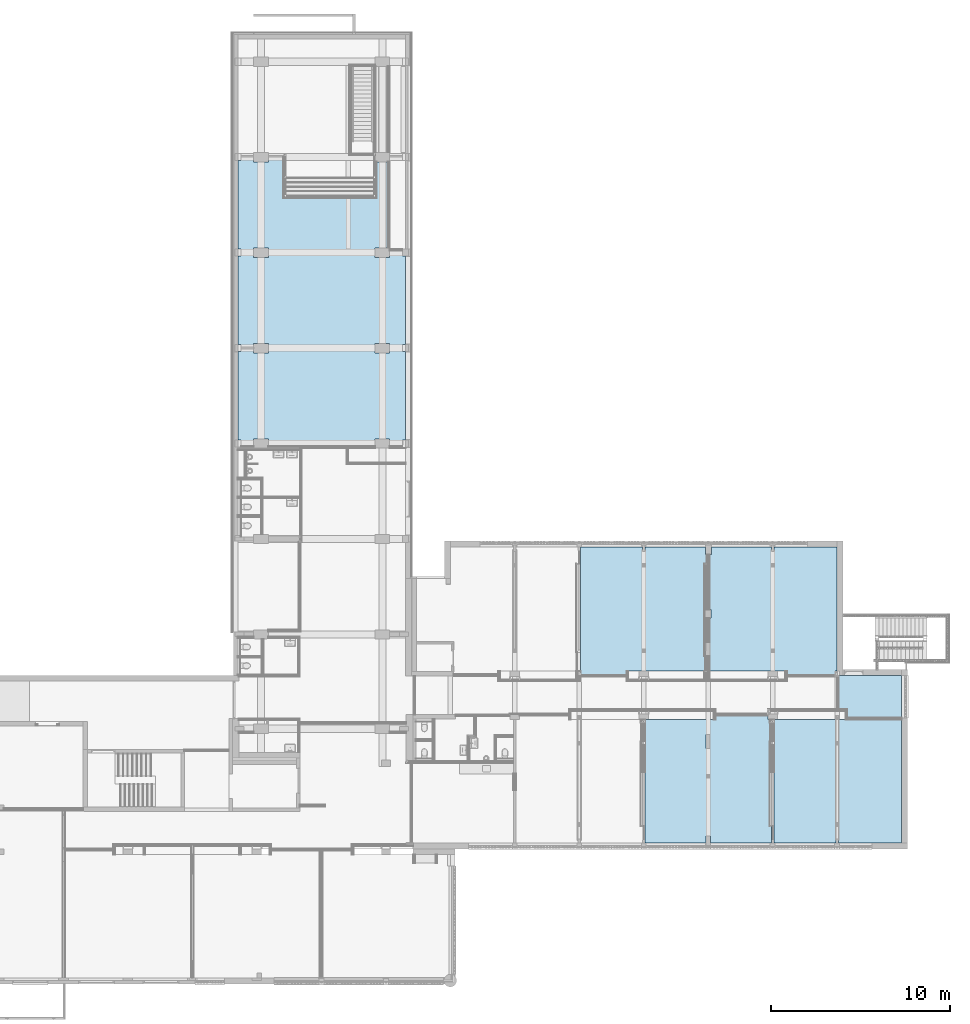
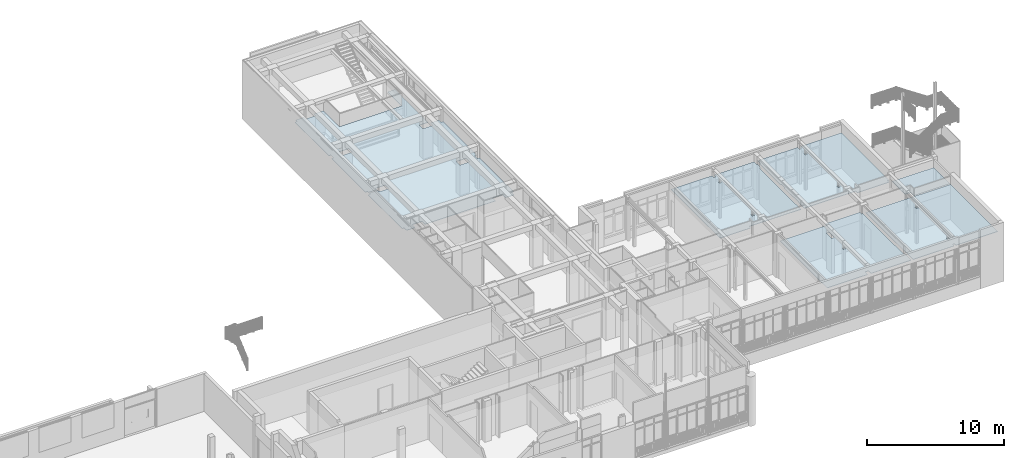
# One storey, part 73 of 135: 6 slabs.
"""IFC2X3 building model written with IfcOpenShell, lengths in millimetres."""

from ifc_helpers import new_model, entity, si_unit, converted_unit, derived_unit, money_unit, direction, frame, origin_with_axes, place, context, subcontext, project, spatial, faceted_brep, material, type_object, element, save


model = new_model("IFC2X3")

# Units and contexts
model_context = context("Model", 3, precision=0.01, world=origin_with_axes(), true_north=direction((0.0, 1.0)))
body_context = subcontext(model_context, "Body", "Model", "MODEL_VIEW")
ifc_project = project(units=[si_unit("LENGTHUNIT", "METRE", prefix="MILLI"), si_unit("AREAUNIT", "SQUARE_METRE"), si_unit("VOLUMEUNIT", "CUBIC_METRE"), converted_unit("PLANEANGLEUNIT", "DEGREE", entity("IfcPlaneAngleMeasure", 0.0174532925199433), si_unit("PLANEANGLEUNIT", "RADIAN"), dimensions=[0, 0, 0, 0, 0, 0, 0]), money_unit("EUR"), converted_unit("TIMEUNIT", "Year", entity("IfcTimeMeasure", 31557600.0), si_unit("TIMEUNIT", "SECOND"), dimensions=[0, 0, 1, 0, 0, 0, 0]), si_unit("MASSUNIT", "GRAM", prefix="KILO"), si_unit("THERMODYNAMICTEMPERATUREUNIT", "DEGREE_CELSIUS"), si_unit("LUMINOUSINTENSITYUNIT", "LUMEN"), si_unit("ENERGYUNIT", "JOULE", prefix="MEGA"), derived_unit("THERMALCONDUCTANCEUNIT", [(si_unit("POWERUNIT", "WATT"), 1), (si_unit("LENGTHUNIT", "METRE"), -1), (si_unit("THERMODYNAMICTEMPERATUREUNIT", "KELVIN"), -1)]), derived_unit("SPECIFICHEATCAPACITYUNIT", [(si_unit("ENERGYUNIT", "JOULE"), 1), (si_unit("MASSUNIT", "GRAM", prefix="KILO"), -1), (si_unit("THERMODYNAMICTEMPERATUREUNIT", "KELVIN"), -1)]), derived_unit("MASSDENSITYUNIT", [(si_unit("MASSUNIT", "GRAM", prefix="KILO"), 1), (si_unit("VOLUMEUNIT", "CUBIC_METRE"), -1)])], contexts=[model_context])

# Site, building, storey
site_placement = place(None, origin_with_axes())
site = spatial("IfcSite", under=ifc_project, at=site_placement, Name="Site", CompositionType="ELEMENT")
building_placement = place(site_placement, origin_with_axes())
building = spatial("IfcBuilding", under=site, at=building_placement, Name="Naam gebouw", CompositionType="ELEMENT")
storey_placement = place(building_placement, origin_with_axes())
storey = spatial("IfcBuildingStorey", under=building, at=storey_placement, Name="Begane grond N", CompositionType="ELEMENT", Elevation=0.0)

# Slabs
ifc_material = material(Name="ALG - BINNENAFWERKING")
slab_type = type_object("IfcSlabType", Name="ALG - BINNENAFWERKING 40", PredefinedType="NOTDEFINED")
slab_1_placement = place(storey_placement, frame((54100.0, 18445.9124251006, 3100.0), z_axis=(0.0, 0.0, 1.0), x_axis=(1.0, 0.0, 0.0)))
element("IfcSlab", 1, at=slab_1_placement, inside=storey, type_object=slab_type, material=ifc_material, Name="_Vloer-x", PredefinedType="NOTDEFINED", context=body_context, shape_type="Brep", body=[
    faceted_brep([(0.0, 0.0, 40.00000000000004), (0.0, 0.0, 0.0), (469.9999999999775, 0.0, 0.0), (469.9999999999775, 0.0, 40.00000000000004), (0.0, 1880.000000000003, 40.00000000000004), (0.0, 1880.000000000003, 0.0), (3499.999999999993, 1880.000000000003, 0.0), (3499.999999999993, -474.9999999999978, 0.0), (469.9999999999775, -474.9999999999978, 0.0), (469.9999999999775, -474.9999999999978, 40.00000000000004), (3499.999999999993, -474.9999999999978, 40.00000000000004), (3499.999999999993, 1880.000000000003, 40.00000000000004)], [[[0, 1, 2, 3]], [[4, 5, 1, 0]], [[2, 1, 5, 6, 7, 8]], [[3, 2, 8, 9]], [[0, 3, 9, 10, 11, 4]], [[11, 6, 5, 4]], [[10, 7, 6, 11]], [[9, 8, 7, 10]]]),
])
slab_2_placement = place(storey_placement, frame((20536.0, 38415.912316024, 2689.998324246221), z_axis=(0.0, 0.0, 1.0), x_axis=(1.0, 0.0, 0.0)))
element("IfcSlab", 2, at=slab_2_placement, inside=storey, type_object=slab_type, material=ifc_material, Name="_Vloer-x", PredefinedType="NOTDEFINED", context=body_context, shape_type="Brep", body=[
    faceted_brep([(7659.999999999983, 5267.5001090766, 0.0), (8479.999999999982, 5267.5001090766, 0.0), (8479.999999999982, 5630.000109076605, 0.0), (9189.99999999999, 5630.000109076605, 0.0), (9190.00007368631, 5330.000066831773, 0.0), (9370.000051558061, 5330.000066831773, 0.0), (9370.000051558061, 400.000191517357, 0.0), (9190.00007368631, 400.000191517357, 0.0), (9190.00007368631, 0.0, 0.0), (9370.000051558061, 0.0, 0.0), (9370.000051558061, -4929.999875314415, 0.0), (9190.00007368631, -4929.999875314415, 0.0), (9190.00007368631, -5292.499890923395, 0.0), (8479.999920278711, -5292.499890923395, 0.0), (8479.999920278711, -4867.499822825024, 0.0), (7660.00002108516, -4867.499822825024, 0.0), (7660.00002108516, -5292.499890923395, 0.0), (1710.000030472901, -5292.499890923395, 0.0), (1710.000030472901, -4867.499822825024, 0.0), (889.9998905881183, -4867.499822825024, 0.0), (889.9998905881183, -5292.499890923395, 0.0), (179.9999778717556, -5292.499890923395, 0.0), (179.9999778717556, -4929.999875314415, 0.0), (0.0, -4929.999875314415, 0.0), (0.0, 0.0, 0.0), (179.9999778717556, 0.0, 0.0), (179.9999778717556, 150.0002222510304, 0.0), (889.9998905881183, 150.0002222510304, 0.0), (889.9998905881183, -62.49981179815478, 0.0), (1710.000030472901, -62.49981179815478, 0.0), (1710.000030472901, 462.5000033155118, 0.0), (889.9998905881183, 462.5000033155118, 0.0), (889.9998905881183, 250.0002099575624, 0.0), (179.9999778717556, 250.0002099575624, 0.0), (179.9999778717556, 400.000191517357, 0.0), (0.0, 400.000191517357, 0.0), (0.0, 5330.000066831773, 0.0), (179.9999778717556, 5330.000066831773, 0.0), (179.9999778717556, 5730.000017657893, 0.0), (0.0, 5730.000017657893, 0.0), (0.0, 10660.00013366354, 0.0), (179.9999778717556, 10660.00013366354, 0.0), (179.9999778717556, 10860.0001090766, 0.0), (889.9998905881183, 10860.0001090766, 0.0), (889.9998905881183, 10597.50008117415, 0.0), (1710.000030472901, 10597.50008117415, 0.0), (1710.000030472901, 10860.0001090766, 0.0), (2524.000026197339, 10860.0001090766, 0.0), (2524.000026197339, 8552.000100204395, 0.0), (2536.500026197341, 8552.000100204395, 0.0), (7759.999999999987, 8552.000100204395, 0.0), (7759.999999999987, 8564.5001002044, 0.0), (7759.999999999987, 10597.5001090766, 0.0), (8379.99992027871, 10597.50009706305, 0.0), (8379.99992027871, 5792.500109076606, 0.0), (7659.999999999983, 5792.500109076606, 0.0), (889.9999999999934, 5792.500109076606, 0.0), (889.9999999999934, 5267.5001090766, 0.0), (1709.999999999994, 5267.5001090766, 0.0), (1709.999999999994, 5792.500109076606, 0.0), (7659.999999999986, 462.5001090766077, 0.0), (7659.999999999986, -62.49989092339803, 0.0), (8479.999999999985, -62.49989092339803, 0.0), (8479.999999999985, 462.5001090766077, 0.0), (7659.999999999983, 5267.5001090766, 40.00000000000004), (8479.999999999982, 5267.5001090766, 40.00000000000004), (8479.999999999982, 5630.000109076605, 40.00000000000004), (9189.99999999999, 5630.000109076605, 40.00000000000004), (9190.00007368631, 5330.000066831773, 40.00000000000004), (9370.000051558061, 5330.000066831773, 40.00000000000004), (9370.000051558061, 400.000191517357, 40.00000000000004), (9190.00007368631, 400.000191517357, 40.00000000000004), (9190.00007368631, 0.0, 40.00000000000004), (9370.000051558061, 0.0, 40.00000000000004), (9370.000051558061, -4929.999875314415, 40.00000000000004), (9190.00007368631, -4929.999875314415, 40.00000000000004), (9190.00007368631, -5292.499890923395, 40.00000000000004), (8479.999920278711, -5292.499890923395, 40.00000000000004), (8479.999920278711, -4867.499822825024, 40.00000000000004), (7660.00002108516, -4867.499822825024, 40.00000000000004), (7660.00002108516, -5292.499890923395, 40.00000000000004), (1710.000030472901, -5292.499890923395, 40.00000000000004), (1710.000030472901, -4867.499822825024, 40.00000000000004), (889.9998905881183, -4867.499822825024, 40.00000000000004), (889.9998905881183, -5292.499890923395, 40.00000000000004), (179.9999778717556, -5292.499890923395, 40.00000000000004), (179.9999778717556, -4929.999875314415, 40.00000000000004), (0.0, -4929.999875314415, 40.00000000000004), (0.0, 0.0, 40.00000000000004), (179.9999778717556, 0.0, 40.00000000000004), (179.9999778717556, 150.0002222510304, 40.00000000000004), (889.9998905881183, 150.0002222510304, 40.00000000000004), (889.9998905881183, -62.49981179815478, 40.00000000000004), (1710.000030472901, -62.49981179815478, 40.00000000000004), (1710.000030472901, 462.5000033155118, 40.00000000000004), (889.9998905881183, 462.5000033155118, 40.00000000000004), (889.9998905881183, 250.0002099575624, 40.00000000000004), (179.9999778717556, 250.0002099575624, 40.00000000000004), (179.9999778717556, 400.000191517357, 40.00000000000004), (0.0, 400.000191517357, 40.00000000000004), (0.0, 5330.000066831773, 40.00000000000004), (179.9999778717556, 5330.000066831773, 40.00000000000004), (179.9999778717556, 5730.000017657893, 40.00000000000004), (0.0, 5730.000017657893, 40.00000000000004), (0.0, 10660.00013366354, 40.00000000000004), (179.9999778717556, 10660.00013366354, 40.00000000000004), (179.9999778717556, 10860.0001090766, 40.00000000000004), (889.9998905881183, 10860.0001090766, 40.00000000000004), (889.9998905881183, 10597.50008117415, 40.00000000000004), (1710.000030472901, 10597.50008117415, 40.00000000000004), (1710.000030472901, 10860.0001090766, 40.00000000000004), (2524.000026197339, 10860.0001090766, 40.00000000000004), (2524.000026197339, 8552.000100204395, 40.00000000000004), (2536.500026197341, 8552.000100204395, 40.00000000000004), (7759.999999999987, 8552.000100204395, 40.00000000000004), (7759.999999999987, 8564.5001002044, 40.00000000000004), (7759.999999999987, 10597.5001090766, 40.00000000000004), (8379.99992027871, 10597.50009706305, 40.00000000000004), (8379.99992027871, 5792.500109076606, 40.00000000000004), (7659.999999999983, 5792.500109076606, 40.00000000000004), (889.9999999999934, 5792.500109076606, 40.00000000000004), (889.9999999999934, 5267.5001090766, 40.00000000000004), (1709.999999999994, 5267.5001090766, 40.00000000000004), (1709.999999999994, 5792.500109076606, 40.00000000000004), (7659.999999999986, 462.5001090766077, 40.00000000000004), (7659.999999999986, -62.49989092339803, 40.00000000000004), (8479.999999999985, -62.49989092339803, 40.00000000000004), (8479.999999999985, 462.5001090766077, 40.00000000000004)], [[[0, 1, 2, 3, 4, 5, 6, 7, 8, 9, 10, 11, 12, 13, 14, 15, 16, 17, 18, 19, 20, 21, 22, 23, 24, 25, 26, 27, 28, 29, 30, 31, 32, 33, 34, 35, 36, 37, 38, 39, 40, 41, 42, 43, 44, 45, 46, 47, 48, 49, 50, 51, 52, 53, 54, 55], [56, 57, 58, 59], [60, 61, 62, 63]], [[0, 64, 65, 1]], [[1, 65, 66, 2]], [[3, 2, 66, 67]], [[68, 4, 3, 67]], [[4, 68, 69, 5]], [[5, 69, 70, 6]], [[6, 70, 71, 7]], [[7, 71, 72, 8]], [[8, 72, 73, 9]], [[9, 73, 74, 10]], [[10, 74, 75, 11]], [[11, 75, 76, 12]], [[12, 76, 77, 13]], [[13, 77, 78, 14]], [[14, 78, 79, 15]], [[15, 79, 80, 16]], [[16, 80, 81, 17]], [[17, 81, 82, 18]], [[18, 82, 83, 19]], [[19, 83, 84, 20]], [[20, 84, 85, 21]], [[21, 85, 86, 22]], [[22, 86, 87, 23]], [[23, 87, 88, 24]], [[24, 88, 89, 25]], [[25, 89, 90, 26]], [[26, 90, 91, 27]], [[27, 91, 92, 28]], [[28, 92, 93, 29]], [[29, 93, 94, 30]], [[30, 94, 95, 31]], [[31, 95, 96, 32]], [[32, 96, 97, 33]], [[33, 97, 98, 34]], [[34, 98, 99, 35]], [[35, 99, 100, 36]], [[36, 100, 101, 37]], [[37, 101, 102, 38]], [[38, 102, 103, 39]], [[39, 103, 104, 40]], [[40, 104, 105, 41]], [[41, 105, 106, 42]], [[42, 106, 107, 43]], [[43, 107, 108, 44]], [[44, 108, 109, 45]], [[45, 109, 110, 46]], [[46, 110, 111, 47]], [[112, 48, 47, 111]], [[48, 112, 113, 49]], [[50, 49, 113, 114]], [[50, 114, 115, 51]], [[52, 51, 115, 116]], [[52, 116, 117, 53]], [[117, 118, 54, 53]], [[55, 54, 118, 119]], [[55, 119, 64, 0]], [[56, 120, 121, 57]], [[57, 121, 122, 58]], [[58, 122, 123, 59]], [[59, 123, 120, 56]], [[60, 124, 125, 61]], [[61, 125, 126, 62]], [[62, 126, 127, 63]], [[63, 127, 124, 60]], [[64, 119, 118, 117, 116, 115, 114, 113, 112, 111, 110, 109, 108, 107, 106, 105, 104, 103, 102, 101, 100, 99, 98, 97, 96, 95, 94, 93, 92, 91, 90, 89, 88, 87, 86, 85, 84, 83, 82, 81, 80, 79, 78, 77, 76, 75, 74, 73, 72, 71, 70, 69, 68, 67, 66, 65], [122, 121, 120, 123], [126, 125, 124, 127]]]),
])
slab_3_placement = place(storey_placement, frame((39675.00000000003, 27505.91242510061, 3100.0), z_axis=(0.0, 0.0, 1.0), x_axis=(1.0, 0.0, 0.0)))
element("IfcSlab", 3, at=slab_3_placement, inside=storey, type_object=slab_type, material=ifc_material, Name="_Vloer-x", PredefinedType="NOTDEFINED", context=body_context, shape_type="Brep", body=[
    faceted_brep([(7049.999959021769, -939.9999590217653, 0.0), (7049.999959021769, -419.9999999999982, 0.0), (7049.999959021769, -419.9999999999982, 40.00000000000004), (7049.999959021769, -939.9999590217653, 40.00000000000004), (6967.302218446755, 0.0, 0.0), (6967.302218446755, -419.9999999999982, 0.0), (6950.000024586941, -940.0000000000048, 0.0), (6924.999999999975, -940.0000000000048, 0.0), (6912.499999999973, -940.0000000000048, 0.0), (6912.499999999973, -6925.00004097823, 0.0), (2609.999950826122, -6925.00004097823, 0.0), (2572.499999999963, -6925.00004097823, 0.0), (2572.499999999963, -7149.999999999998, 0.0), (0.0, -7149.999999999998, 0.0), (0.0, 0.0, 0.0), (3449.999975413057, 0.0, 0.0), (3449.999975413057, -255.0000245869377, 0.0), (3599.999983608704, -255.0000245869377, 0.0), (3599.999983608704, 0.0, 0.0), (3464.999999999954, -5884.999999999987, 0.0), (3609.99999999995, -5884.999999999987, 0.0), (3609.99999999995, -5860.000000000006, 0.0), (3609.99999999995, -5739.999999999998, 0.0), (3609.999999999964, -5715.0, 0.0), (3464.999999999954, -5715.0, 0.0), (3439.999999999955, -5715.0, 0.0), (3439.999999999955, -5884.999999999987, 0.0), (3464.999999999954, -1109.999999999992, 0.0), (3609.99999999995, -1109.999999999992, 0.0), (3609.99999999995, -1085.000000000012, 0.0), (3609.99999999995, -965.0000000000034, 0.0), (3609.999999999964, -940.0000000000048, 0.0), (3464.999999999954, -940.0000000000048, 0.0), (3439.999999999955, -940.0000000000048, 0.0), (3439.999999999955, -1109.999999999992, 0.0), (6967.302218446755, -419.9999999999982, 40.00000000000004), (6967.302218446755, 0.0, 40.00000000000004), (3599.999983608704, 0.0, 40.00000000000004), (3599.999983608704, -255.0000245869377, 40.00000000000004), (3449.999975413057, -255.0000245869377, 40.00000000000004), (3449.999975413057, 0.0, 40.00000000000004), (0.0, 0.0, 40.00000000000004), (0.0, -7149.999999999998, 40.00000000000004), (2572.499999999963, -7149.999999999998, 40.00000000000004), (2572.499999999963, -6925.00004097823, 40.00000000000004), (2609.999950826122, -6925.00004097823, 40.00000000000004), (6912.499999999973, -6925.00004097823, 40.00000000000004), (6912.499999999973, -940.0000000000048, 40.00000000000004), (6924.999999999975, -940.0000000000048, 40.00000000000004), (6950.000024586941, -940.0000000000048, 40.00000000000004), (3464.999999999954, -5715.0, 40.00000000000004), (3609.999999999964, -5715.0, 40.00000000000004), (3609.99999999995, -5739.999999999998, 40.00000000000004), (3609.99999999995, -5860.000000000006, 40.00000000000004), (3609.99999999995, -5884.999999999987, 40.00000000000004), (3464.999999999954, -5884.999999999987, 40.00000000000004), (3439.999999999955, -5884.999999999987, 40.00000000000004), (3439.999999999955, -5715.0, 40.00000000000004), (3464.999999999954, -940.0000000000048, 40.00000000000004), (3609.999999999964, -940.0000000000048, 40.00000000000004), (3609.99999999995, -965.0000000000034, 40.00000000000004), (3609.99999999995, -1085.000000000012, 40.00000000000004), (3609.99999999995, -1109.999999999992, 40.00000000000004), (3464.999999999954, -1109.999999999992, 40.00000000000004), (3439.999999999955, -1109.999999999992, 40.00000000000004), (3439.999999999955, -940.0000000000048, 40.00000000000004)], [[[0, 1, 2, 3]], [[4, 5, 1, 0, 6, 7, 8, 9, 10, 11, 12, 13, 14, 15, 16, 17, 18], [19, 20, 21, 22, 23, 24, 25, 26], [27, 28, 29, 30, 31, 32, 33, 34]], [[5, 35, 2, 1]], [[2, 35, 36, 37, 38, 39, 40, 41, 42, 43, 44, 45, 46, 47, 48, 49, 3], [50, 51, 52, 53, 54, 55, 56, 57], [58, 59, 60, 61, 62, 63, 64, 65]], [[0, 3, 49, 6]], [[5, 4, 36, 35]], [[48, 7, 6, 49]], [[47, 8, 7, 48]], [[9, 8, 47, 46]], [[45, 10, 9, 46]], [[11, 10, 45, 44]], [[12, 11, 44, 43]], [[42, 13, 12, 43]], [[13, 42, 41, 14]], [[14, 41, 40, 15]], [[15, 40, 39, 16]], [[16, 39, 38, 17]], [[17, 38, 37, 18]], [[37, 36, 4, 18]], [[20, 19, 55, 54]], [[20, 54, 53, 21]], [[22, 21, 53, 52]], [[51, 23, 22, 52]], [[24, 23, 51, 50]], [[57, 25, 24, 50]], [[26, 25, 57, 56]], [[26, 56, 55, 19]], [[28, 27, 63, 62]], [[28, 62, 61, 29]], [[30, 29, 61, 60]], [[59, 31, 30, 60]], [[32, 31, 59, 58]], [[65, 33, 32, 58]], [[34, 33, 65, 64]], [[34, 64, 63, 27]]]),
    faceted_brep([(3464.999999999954, -5859.999999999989, 40.00000000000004), (3584.999999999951, -5860.000000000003, 40.00000000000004), (3584.999999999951, -5739.999999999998, 40.00000000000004), (3464.999999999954, -5739.999999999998, 40.00000000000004), (3464.999999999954, -5859.999999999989, 0.0), (3584.999999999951, -5860.000000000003, 0.0), (3584.999999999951, -5739.999999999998, 0.0), (3464.999999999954, -5739.999999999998, 0.0)], [[[0, 1, 2, 3]], [[4, 5, 1, 0]], [[5, 6, 2, 1]], [[3, 2, 6, 7]], [[7, 4, 0, 3]], [[7, 6, 5, 4]]]),
    faceted_brep([(3464.999999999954, -1084.999999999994, 40.00000000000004), (3584.999999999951, -1085.000000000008, 40.00000000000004), (3584.999999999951, -965.0000000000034, 40.00000000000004), (3464.999999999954, -965.0000000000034, 40.00000000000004), (3464.999999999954, -1084.999999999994, 0.0), (3584.999999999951, -1085.000000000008, 0.0), (3584.999999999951, -965.0000000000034, 0.0), (3464.999999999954, -965.0000000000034, 0.0)], [[[0, 1, 2, 3]], [[4, 5, 1, 0]], [[5, 6, 2, 1]], [[3, 2, 6, 7]], [[7, 4, 0, 3]], [[7, 6, 5, 4]]]),
])
slab_4_placement = place(storey_placement, frame((46875.00000000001, 27505.91242510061, 3100.0), z_axis=(0.0, 0.0, 1.0), x_axis=(1.0, 0.0, 0.0)))
element("IfcSlab", 4, at=slab_4_placement, inside=storey, type_object=slab_type, material=ifc_material, Name="_Vloer-x", PredefinedType="NOTDEFINED", context=body_context, shape_type="Brep", body=[
    faceted_brep([(3449.999999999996, 0.0, 0.0), (97.30221844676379, 0.0, 0.0), (97.30221844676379, 0.0, 40.00000000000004), (3449.999999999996, 0.0, 40.00000000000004), (0.0, -419.9999999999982, 0.0), (97.30221844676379, -419.9999999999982, 0.0), (3449.999999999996, -254.999999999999, 0.0), (3599.999999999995, -254.999999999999, 0.0), (3599.999999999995, 0.0, 0.0), (7124.999999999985, 0.0, 0.0), (7124.999999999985, -6930.0, 0.0), (6999.999999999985, -6930.0, 0.0), (6999.999999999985, -7149.999999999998, 0.0), (4339.999999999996, -7149.999999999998, 0.0), (4339.999999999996, -6925.000000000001, 0.0), (0.0, -6925.000000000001, 0.0), (0.0, -6085.000000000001, 0.0), (37.4999999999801, -6085.000000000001, 0.0), (37.4999999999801, -5314.999999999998, 0.0), (0.0, -5314.999999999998, 0.0), (0.0, -3973.678552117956, 0.0), (78.90882617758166, -3973.937967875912, 0.0), (80.47039824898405, -3498.940534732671, 0.0), (0.0, -3498.675985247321, 0.0), (3464.999999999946, -5884.999999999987, 0.0), (3609.999999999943, -5884.999999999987, 0.0), (3609.999999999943, -5860.000000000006, 0.0), (3609.999999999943, -5739.999999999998, 0.0), (3609.999999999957, -5715.0, 0.0), (3464.999999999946, -5715.0, 0.0), (3439.999999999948, -5715.0, 0.0), (3439.999999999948, -5884.999999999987, 0.0), (3464.999999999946, -1109.999999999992, 0.0), (3609.999999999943, -1109.999999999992, 0.0), (3609.999999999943, -1085.000000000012, 0.0), (3609.999999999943, -965.0000000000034, 0.0), (3609.999999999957, -940.0000000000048, 0.0), (3464.999999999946, -940.0000000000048, 0.0), (3439.999999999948, -940.0000000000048, 0.0), (3439.999999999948, -1109.999999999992, 0.0), (97.30221844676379, -419.9999999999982, 40.00000000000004), (0.0, -419.9999999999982, 40.00000000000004), (0.0, -3498.675985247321, 40.00000000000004), (80.47039824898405, -3498.940534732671, 40.00000000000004), (78.90882617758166, -3973.937967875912, 40.00000000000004), (0.0, -3973.678552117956, 40.00000000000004), (0.0, -5314.999999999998, 40.00000000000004), (37.4999999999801, -5314.999999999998, 40.00000000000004), (37.4999999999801, -6085.000000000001, 40.00000000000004), (0.0, -6085.000000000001, 40.00000000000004), (0.0, -6925.000000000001, 40.00000000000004), (4339.999999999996, -6925.000000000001, 40.00000000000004), (4339.999999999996, -7149.999999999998, 40.00000000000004), (6999.999999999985, -7149.999999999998, 40.00000000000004), (6999.999999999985, -6930.0, 40.00000000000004), (7124.999999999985, -6930.0, 40.00000000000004), (7124.999999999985, 0.0, 40.00000000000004), (3599.999999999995, 0.0, 40.00000000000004), (3599.999999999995, -254.999999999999, 40.00000000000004), (3449.999999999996, -254.999999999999, 40.00000000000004), (3464.999999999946, -5715.0, 40.00000000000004), (3609.999999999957, -5715.0, 40.00000000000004), (3609.999999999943, -5739.999999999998, 40.00000000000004), (3609.999999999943, -5860.000000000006, 40.00000000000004), (3609.999999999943, -5884.999999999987, 40.00000000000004), (3464.999999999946, -5884.999999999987, 40.00000000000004), (3439.999999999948, -5884.999999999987, 40.00000000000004), (3439.999999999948, -5715.0, 40.00000000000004), (3464.999999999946, -940.0000000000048, 40.00000000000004), (3609.999999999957, -940.0000000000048, 40.00000000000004), (3609.999999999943, -965.0000000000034, 40.00000000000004), (3609.999999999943, -1085.000000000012, 40.00000000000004), (3609.999999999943, -1109.999999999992, 40.00000000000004), (3464.999999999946, -1109.999999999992, 40.00000000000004), (3439.999999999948, -1109.999999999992, 40.00000000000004), (3439.999999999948, -940.0000000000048, 40.00000000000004)], [[[0, 1, 2, 3]], [[4, 5, 1, 0, 6, 7, 8, 9, 10, 11, 12, 13, 14, 15, 16, 17, 18, 19, 20, 21, 22, 23], [24, 25, 26, 27, 28, 29, 30, 31], [32, 33, 34, 35, 36, 37, 38, 39]], [[5, 40, 2, 1]], [[2, 40, 41, 42, 43, 44, 45, 46, 47, 48, 49, 50, 51, 52, 53, 54, 55, 56, 57, 58, 59, 3], [60, 61, 62, 63, 64, 65, 66, 67], [68, 69, 70, 71, 72, 73, 74, 75]], [[0, 3, 59, 6]], [[4, 41, 40, 5]], [[6, 59, 58, 7]], [[7, 58, 57, 8]], [[8, 57, 56, 9]], [[9, 56, 55, 10]], [[10, 55, 54, 11]], [[11, 54, 53, 12]], [[12, 53, 52, 13]], [[13, 52, 51, 14]], [[14, 51, 50, 15]], [[50, 49, 16, 15]], [[16, 49, 48, 17]], [[17, 48, 47, 18]], [[18, 47, 46, 19]], [[20, 19, 46, 45]], [[20, 45, 44, 21]], [[21, 44, 43, 22]], [[22, 43, 42, 23]], [[42, 41, 4, 23]], [[25, 24, 65, 64]], [[25, 64, 63, 26]], [[27, 26, 63, 62]], [[61, 28, 27, 62]], [[29, 28, 61, 60]], [[67, 30, 29, 60]], [[31, 30, 67, 66]], [[31, 66, 65, 24]], [[33, 32, 73, 72]], [[33, 72, 71, 34]], [[35, 34, 71, 70]], [[69, 36, 35, 70]], [[37, 36, 69, 68]], [[75, 38, 37, 68]], [[39, 38, 75, 74]], [[39, 74, 73, 32]]]),
    faceted_brep([(3464.999999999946, -5859.999999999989, 40.00000000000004), (3584.999999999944, -5860.000000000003, 40.00000000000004), (3584.999999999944, -5739.999999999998, 40.00000000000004), (3464.999999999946, -5739.999999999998, 40.00000000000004), (3464.999999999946, -5859.999999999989, 0.0), (3584.999999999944, -5860.000000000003, 0.0), (3584.999999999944, -5739.999999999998, 0.0), (3464.999999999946, -5739.999999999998, 0.0)], [[[0, 1, 2, 3]], [[4, 5, 1, 0]], [[5, 6, 2, 1]], [[3, 2, 6, 7]], [[7, 4, 0, 3]], [[7, 6, 5, 4]]]),
    faceted_brep([(3464.999999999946, -1084.999999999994, 40.00000000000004), (3584.999999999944, -1085.000000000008, 40.00000000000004), (3584.999999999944, -965.0000000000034, 40.00000000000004), (3464.999999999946, -965.0000000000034, 40.00000000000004), (3464.999999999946, -1084.999999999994, 0.0), (3584.999999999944, -1085.000000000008, 0.0), (3584.999999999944, -965.0000000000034, 0.0), (3464.999999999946, -965.0000000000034, 0.0)], [[[0, 1, 2, 3]], [[4, 5, 1, 0]], [[5, 6, 2, 1]], [[3, 2, 6, 7]], [[7, 4, 0, 3]], [[7, 6, 5, 4]]]),
])
slab_5_placement = place(storey_placement, frame((43274.99994546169, 10990.91242510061, 3100.0), z_axis=(0.0, 0.0, 1.0), x_axis=(1.0, 0.0, 0.0)))
element("IfcSlab", 5, at=slab_5_placement, inside=storey, type_object=slab_type, material=ifc_material, Name="_Vloer-x", PredefinedType="NOTDEFINED", context=body_context, shape_type="Brep", body=[
    faceted_brep([(3465.000054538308, 3768.394590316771, 40.00000000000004), (3465.000054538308, 3648.394590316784, 40.00000000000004), (3585.000054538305, 3648.39459031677, 40.00000000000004), (3585.000054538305, 3768.394590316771, 40.00000000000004), (3465.000054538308, 3768.394590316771, 0.0), (3465.000054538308, 3648.394590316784, 0.0), (3585.000054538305, 3648.39459031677, 0.0), (3585.000054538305, 3768.394590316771, 0.0)], [[[0, 1, 2, 3]], [[0, 4, 5, 1]], [[1, 5, 6, 2]], [[2, 6, 7, 3]], [[4, 0, 3, 7]], [[5, 4, 7, 6]]]),
    faceted_brep([(0.0, 0.0, 40.00000000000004), (3388.0688074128, 0.0, 40.00000000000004), (3389.364957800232, 375.4966086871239, 40.00000000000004), (3664.365233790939, 374.5473545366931, 40.00000000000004), (3663.07236006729, 0.0, 40.00000000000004), (7050.000006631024, 0.0, 40.00000000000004), (7050.000006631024, 940.0000502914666, 40.00000000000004), (6950.000028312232, 940.0000502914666, 40.00000000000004), (6950.000028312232, 6879.999969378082, 40.00000000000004), (6855.000107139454, 6879.999969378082, 40.00000000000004), (6855.000107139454, 7104.999999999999, 40.00000000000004), (3945.000092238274, 7104.999999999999, 40.00000000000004), (3945.000092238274, 6879.999969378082, 40.00000000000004), (0.0, 6879.999969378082, 40.00000000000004), (3465.000054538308, 3793.394590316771, 40.00000000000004), (3610.000054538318, 3793.394590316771, 40.00000000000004), (3610.000054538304, 3768.394590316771, 40.00000000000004), (3610.000054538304, 3648.394590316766, 40.00000000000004), (3610.000054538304, 3623.394590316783, 40.00000000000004), (3465.000054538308, 3623.394590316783, 40.00000000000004), (3440.00005453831, 3623.394590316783, 40.00000000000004), (3440.00005453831, 3793.394590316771, 40.00000000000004), (3637.5000545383, 5269.999999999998, 40.00000000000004), (3412.500054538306, 5269.999999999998, 40.00000000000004), (3412.500054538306, 6040.000000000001, 40.00000000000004), (3637.5000545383, 6040.000000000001, 40.00000000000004), (0.0, 0.0, 0.0), (3388.0688074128, 0.0, 0.0), (3389.364957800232, 375.4966086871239, 0.0), (3664.365233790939, 374.5473545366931, 0.0), (3663.07236006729, 0.0, 0.0), (7050.000006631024, 0.0, 0.0), (7050.000006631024, 940.0000502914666, 0.0), (6950.000028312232, 940.0000502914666, 0.0), (6950.000028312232, 6879.999969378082, 0.0), (6855.000107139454, 6879.999969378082, 0.0), (6855.000107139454, 7104.999999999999, 0.0), (3945.000092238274, 7104.999999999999, 0.0), (3945.000092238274, 6879.999969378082, 0.0), (0.0, 6879.999969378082, 0.0), (3465.000054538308, 3793.394590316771, 0.0), (3610.000054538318, 3793.394590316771, 0.0), (3610.000054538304, 3768.394590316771, 0.0), (3610.000054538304, 3648.394590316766, 0.0), (3610.000054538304, 3623.394590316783, 0.0), (3465.000054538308, 3623.394590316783, 0.0), (3440.00005453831, 3623.394590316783, 0.0), (3440.00005453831, 3793.394590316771, 0.0), (3412.500054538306, 5269.999999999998, 0.0), (3637.5000545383, 5269.999999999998, 0.0), (3412.500054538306, 6040.000000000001, 0.0), (3637.5000545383, 6040.000000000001, 0.0)], [[[0, 1, 2, 3, 4, 5, 6, 7, 8, 9, 10, 11, 12, 13], [14, 15, 16, 17, 18, 19, 20, 21], [22, 23, 24, 25]], [[26, 27, 1, 0]], [[28, 2, 1, 27]], [[29, 3, 2, 28]], [[30, 4, 3, 29]], [[5, 4, 30, 31]], [[32, 6, 5, 31]], [[33, 7, 6, 32]], [[34, 8, 7, 33]], [[35, 9, 8, 34]], [[36, 10, 9, 35]], [[37, 11, 10, 36]], [[38, 12, 11, 37]], [[39, 13, 12, 38]], [[26, 0, 13, 39]], [[40, 41, 15, 14]], [[15, 41, 42, 16]], [[42, 43, 17, 16]], [[44, 18, 17, 43]], [[44, 45, 19, 18]], [[46, 20, 19, 45]], [[46, 47, 21, 20]], [[21, 47, 40, 14]], [[48, 23, 22, 49]], [[50, 24, 23, 48]], [[51, 25, 24, 50]], [[49, 22, 25, 51]], [[29, 28, 27, 26, 39, 38, 37, 36, 35, 34, 33, 32, 31, 30], [45, 44, 43, 42, 41, 40, 47, 46], [50, 48, 49, 51]]]),
])
slab_6_placement = place(storey_placement, frame((50474.99998658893, 10990.91242510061, 3100.0), z_axis=(0.0, 0.0, 1.0), x_axis=(1.0, 0.0, 0.0)))
element("IfcSlab", 6, at=slab_6_placement, inside=storey, type_object=slab_type, material=ifc_material, Name="_Vloer-x", PredefinedType="NOTDEFINED", context=body_context, shape_type="Brep", body=[
    faceted_brep([(3465.000013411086, 965.0000000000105, 40.00000000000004), (3585.000013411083, 964.9999999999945, 40.00000000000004), (3585.000013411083, 1084.999999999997, 40.00000000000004), (3465.000013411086, 1084.999999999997, 40.00000000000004), (3465.000013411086, 965.0000000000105, 0.0), (3585.000013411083, 964.9999999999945, 0.0), (3585.000013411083, 1084.999999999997, 0.0), (3465.000013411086, 1084.999999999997, 0.0)], [[[0, 1, 2, 3]], [[4, 5, 1, 0]], [[5, 6, 2, 1]], [[3, 2, 6, 7]], [[7, 4, 0, 3]], [[7, 6, 5, 4]]]),
    faceted_brep([(3465.000013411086, 5510.00000000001, 40.00000000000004), (3585.000013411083, 5509.999999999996, 40.00000000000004), (3585.000013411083, 5630.000000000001, 40.00000000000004), (3465.000013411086, 5630.000000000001, 40.00000000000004), (3465.000013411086, 5510.00000000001, 0.0), (3585.000013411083, 5509.999999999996, 0.0), (3585.000013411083, 5630.000000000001, 0.0), (3465.000013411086, 5630.000000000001, 0.0)], [[[0, 1, 2, 3]], [[4, 5, 1, 0]], [[5, 6, 2, 1]], [[3, 2, 6, 7]], [[7, 4, 0, 3]], [[7, 6, 5, 4]]]),
    faceted_brep([(3610.000013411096, 5654.999999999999, 0.0), (3610.000013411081, 5630.000000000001, 0.0), (3610.000013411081, 5630.000000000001, 40.00000000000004), (3610.000013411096, 5654.999999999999, 40.00000000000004), (3450.000013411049, 210.0000000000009, 0.0), (3450.000013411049, 0.0, 0.0), (0.0, 0.0, 0.0), (0.0, 6880.000048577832, 0.0), (7125.000013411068, 6880.000048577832, 0.0), (7125.000013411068, 0.0, 0.0), (3600.000013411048, 0.0, 0.0), (3600.000013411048, 210.0000000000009, 0.0), (3610.000013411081, 940.0000000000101, 0.0), (3610.000013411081, 964.9999999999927, 0.0), (3610.000013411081, 1084.999999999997, 0.0), (3610.000013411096, 1109.999999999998, 0.0), (3465.000013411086, 1109.999999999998, 0.0), (3440.000013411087, 1109.999999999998, 0.0), (3440.000013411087, 940.0000000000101, 0.0), (3465.000013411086, 940.0000000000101, 0.0), (3610.000013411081, 5485.000000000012, 0.0), (3610.000013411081, 5509.999999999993, 0.0), (3465.000013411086, 5654.999999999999, 0.0), (3440.000013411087, 5654.999999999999, 0.0), (3440.000013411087, 5485.000000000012, 0.0), (3465.000013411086, 5485.000000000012, 0.0), (3610.000013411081, 5509.999999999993, 40.00000000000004), (7125.000013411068, 6880.000048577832, 40.00000000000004), (0.0, 6880.000048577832, 40.00000000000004), (0.0, 0.0, 40.00000000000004), (3450.000013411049, 0.0, 40.00000000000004), (3450.000013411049, 210.0000000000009, 40.00000000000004), (3600.000013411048, 210.0000000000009, 40.00000000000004), (3600.000013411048, 0.0, 40.00000000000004), (7125.000013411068, 0.0, 40.00000000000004), (3610.000013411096, 1109.999999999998, 40.00000000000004), (3610.000013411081, 1084.999999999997, 40.00000000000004), (3610.000013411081, 964.9999999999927, 40.00000000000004), (3610.000013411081, 940.0000000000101, 40.00000000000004), (3465.000013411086, 940.0000000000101, 40.00000000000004), (3440.000013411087, 940.0000000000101, 40.00000000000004), (3440.000013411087, 1109.999999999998, 40.00000000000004), (3465.000013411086, 1109.999999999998, 40.00000000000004), (3610.000013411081, 5485.000000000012, 40.00000000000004), (3465.000013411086, 5485.000000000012, 40.00000000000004), (3440.000013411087, 5485.000000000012, 40.00000000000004), (3440.000013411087, 5654.999999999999, 40.00000000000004), (3465.000013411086, 5654.999999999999, 40.00000000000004)], [[[0, 1, 2, 3]], [[4, 5, 6, 7, 8, 9, 10, 11], [12, 13, 14, 15, 16, 17, 18, 19], [20, 21, 1, 0, 22, 23, 24, 25]], [[21, 26, 2, 1]], [[27, 28, 29, 30, 31, 32, 33, 34], [35, 36, 37, 38, 39, 40, 41, 42], [3, 2, 26, 43, 44, 45, 46, 47]], [[0, 3, 47, 22]], [[31, 30, 5, 4]], [[30, 29, 6, 5]], [[29, 28, 7, 6]], [[28, 27, 8, 7]], [[27, 34, 9, 8]], [[34, 33, 10, 9]], [[33, 32, 11, 10]], [[32, 31, 4, 11]], [[38, 37, 13, 12]], [[13, 37, 36, 14]], [[15, 14, 36, 35]], [[15, 35, 42, 16]], [[17, 16, 42, 41]], [[17, 41, 40, 18]], [[40, 39, 19, 18]], [[19, 39, 38, 12]], [[43, 26, 21, 20]], [[23, 22, 47, 46]], [[23, 46, 45, 24]], [[45, 44, 25, 24]], [[25, 44, 43, 20]]]),
])

save(model, "model.ifc")
